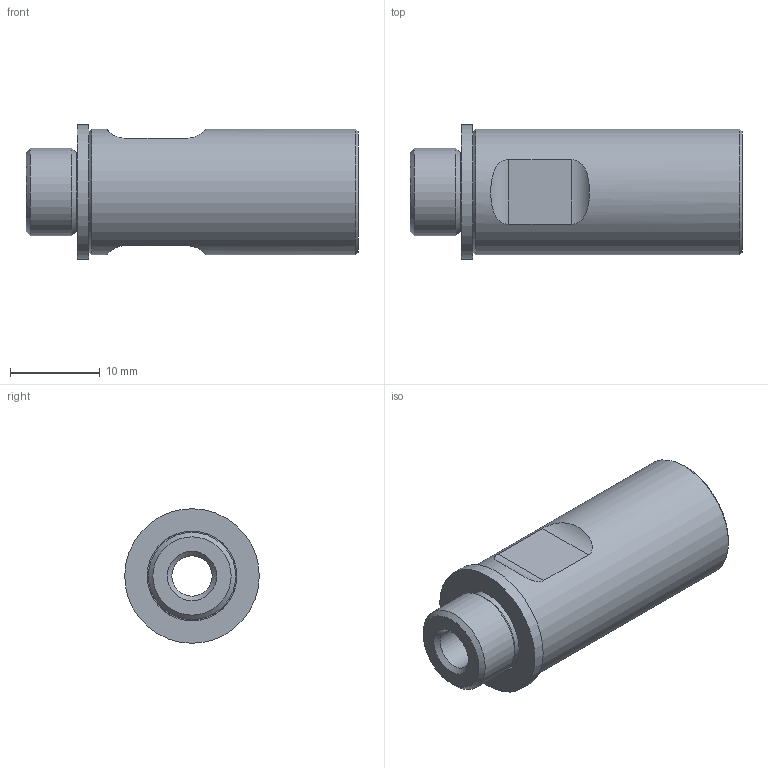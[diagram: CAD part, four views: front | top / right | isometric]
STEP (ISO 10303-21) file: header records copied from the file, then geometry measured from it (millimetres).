
FILE_DESCRIPTION(('STEP AP214'),'1');
FILE_NAME('CA.GSEG.141830.stp','2018-06-15T14:48:05',(' '),(' '),'Spatial InterOp 3D',' ',' ');
FILE_SCHEMA(('AUTOMOTIVE_DESIGN { 1 0 10303 214 1 1 1 1 }'));
Length unit declared in the file: millimetre
Products named in the file (3): CA.GSEG.141830; CA.08.09.18; GSEG.141830
Assembly tree (2 placements, depth 2):
  CA.GSEG.141830
    CA.08.09.18
    GSEG.141830
Bounding box: 37 x 15 x 15 mm (x, y, z)
Volume: 3858 mm3; surface area: 2818.6 mm2
Topology: 2 solids, 2 shells, 32 faces, 72 edges, 47 vertices
Faces by surface type: cylinder 15, plane 11, cone 6
Full cylindrical faces by diameter (mm): 4.5 x1, 8.5 x1, 8.566 x2, 9.728 x1, 10 x1, 14 x1, 15 x1
Entity records: 1256 total; most frequent: CARTESIAN_POINT 309, DIRECTION 142, ORIENTED_EDGE 98, AXIS2_PLACEMENT_3D 64, EDGE_LOOP 54, EDGE_CURVE 49, FACE_OUTER_BOUND 40, VERTEX_POINT 39
